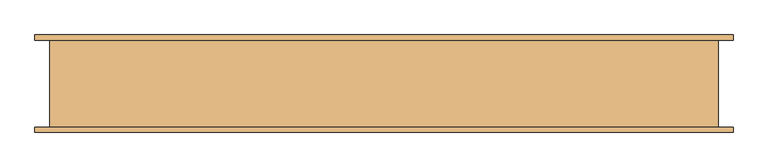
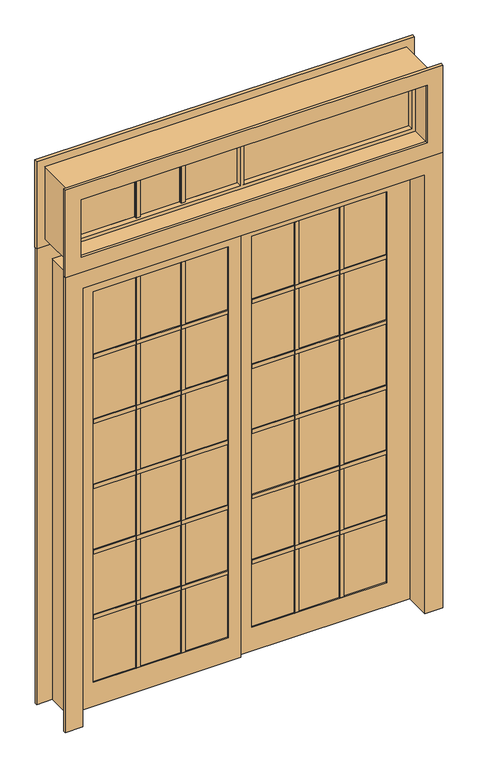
"""IFC4 building model written with IfcOpenShell, lengths in millimetres: door geometry, Pollard_Windows_Vistador Patio Doors_ATS_Rectangular : AVDR6080-ATS6016_GC."""

from ifc_helpers import new_model, si_unit, frame, origin, place, context, project, spatial, polyline, outline, extrude, faceted_brep, source, transform, mapped, element, save


def door_ad6125d4(model_context):
    return source(origin(), model_context, "Body", "SolidModel", [
        faceted_brep([(-734.5339909, -25.4, 2403.7965909), (-734.5339909, -2.5, 2403.7965909), (-9.0, -2.5, 2403.7965909), (-9.0, -25.4, 2403.7965909), (734.5339909, -2.5, 2403.7965909), (734.5339909, -25.4, 2403.7965909), (9.0, -25.4, 2403.7965909), (9.0, -2.5, 2403.7965909), (-4.0, -2.5, 2416.4965909), (-747.2339909, -2.5, 2416.4965909), (-747.2339909, 2.5, 2416.4965909), (-4.0, 2.5, 2416.4965909), (4.0, 2.5, 2416.4965909), (747.2339909, 2.5, 2416.4965909), (747.2339909, -2.5, 2416.4965909), (4.0, -2.5, 2416.4965909), (-734.5339909, 2.5, 2403.7965909), (-734.5339909, 25.4, 2403.7965909), (-9.0, 25.4, 2403.7965909), (-9.0, 2.5, 2403.7965909), (734.5339909, 25.4, 2403.7965909), (734.5339909, 2.5, 2403.7965909), (9.0, 2.5, 2403.7965909), (9.0, 25.4, 2403.7965909), (770.4074, -25.4, 2439.67), (770.4074, 25.4, 2439.67), (-770.4074, 25.4, 2439.67), (-770.4074, -25.4, 2439.67), (-734.5339909, -25.4, 2171.2514091), (-734.5339909, -2.5, 2171.2514091), (-747.2339909, -2.5, 2158.5514091), (-747.2339909, 2.5, 2158.5514091), (-734.5339909, 2.5, 2171.2514091), (-734.5339909, 25.4, 2171.2514091), (-770.4074, 25.4, 2135.378), (-770.4074, -25.4, 2135.378), (-9.0, -25.4, 2171.2514091), (-9.0, -2.5, 2171.2514091), (734.5339909, -25.4, 2171.2514091), (734.5339909, -2.5, 2171.2514091), (9.0, -2.5, 2171.2514091), (9.0, -25.4, 2171.2514091), (4.0, -2.5, 2158.5514091), (747.2339909, -2.5, 2158.5514091), (747.2339909, 2.5, 2158.5514091), (4.0, 2.5, 2158.5514091), (-4.0, 2.5, 2158.5514091), (-4.0, -2.5, 2158.5514091), (-9.0, 2.5, 2171.2514091), (-9.0, 25.4, 2171.2514091), (734.5339909, 2.5, 2171.2514091), (734.5339909, 25.4, 2171.2514091), (9.0, 25.4, 2171.2514091), (9.0, 2.5, 2171.2514091), (770.4074, 25.4, 2135.378), (770.4074, -25.4, 2135.378)], [[[0, 1, 2, 3]], [[4, 5, 6, 7]], [[8, 9, 10, 11]], [[12, 13, 14, 15]], [[16, 17, 18, 19]], [[20, 21, 22, 23]], [[24, 25, 26, 27]], [[1, 0, 28, 29]], [[10, 9, 30, 31]], [[17, 16, 32, 33]], [[27, 26, 34, 35]], [[29, 28, 36, 37]], [[38, 39, 40, 41]], [[42, 43, 44, 45]], [[46, 31, 30, 47]], [[33, 32, 48, 49]], [[50, 51, 52, 53]], [[35, 34, 54, 55]], [[5, 4, 39, 38]], [[30, 9, 8, 47], [1, 29, 37, 2]], [[14, 43, 42, 15], [39, 4, 7, 40]], [[14, 13, 44, 43]], [[10, 31, 46, 11], [16, 19, 48, 32]], [[44, 13, 12, 45], [50, 53, 22, 21]], [[21, 20, 51, 50]], [[26, 25, 54, 34], [20, 23, 52, 51], [17, 33, 49, 18]], [[25, 24, 55, 54]], [[24, 27, 35, 55], [28, 0, 3, 36], [38, 41, 6, 5]], [[36, 3, 2, 37]], [[6, 41, 40, 7]], [[45, 12, 15, 42]], [[22, 53, 52, 23]], [[48, 19, 18, 49]], [[11, 46, 47, 8]]]),
        extrude(outline(polyline([(2487.549, 818.2864), (2487.549, -818.2864), (2087.499, -818.2864), (2087.499, 818.2864), (2487.549, 818.2864)]), holes=[polyline([(2155.698, 750.0874), (2155.698, -750.0874), (2419.35, -750.0874), (2419.35, 750.0874), (2155.698, 750.0874)])]), frame((0.0, 101.6, 0.0), z_axis=(0.0, 1.0, 0.0), x_axis=(0.0, 0.0, 1.0)), (0.0, 0.0, 1.0), 12.7),
        extrude(outline(polyline([(-750.0874, 2.5), (750.0874, 2.5), (750.0874, -2.5), (-750.0874, -2.5), (-750.0874, 2.5)])), frame((0.0, 0.0, 2155.698), z_axis=(0.0, 0.0, 1.0), x_axis=(1.0, 0.0, 0.0)), (0.0, 0.0, 1.0), 263.652),
        faceted_brep([(734.5339909, -2.5, 2403.7965909), (734.5339909, -25.4, 2403.7965909), (-734.5339909, -25.4, 2403.7965909), (-734.5339909, -2.5, 2403.7965909), (747.2339909, 2.5, 2416.4965909), (747.2339909, -2.5, 2416.4965909), (-747.2339909, -2.5, 2416.4965909), (-747.2339909, 2.5, 2416.4965909), (734.5339909, 25.4, 2403.7965909), (734.5339909, 2.5, 2403.7965909), (-734.5339909, 2.5, 2403.7965909), (-734.5339909, 25.4, 2403.7965909), (770.4074, -25.4, 2439.67), (770.4074, 25.4, 2439.67), (-770.4074, 25.4, 2439.67), (-770.4074, -25.4, 2439.67), (-734.5339909, -25.4, 2171.2514091), (-734.5339909, -2.5, 2171.2514091), (-747.2339909, -2.5, 2158.5514091), (-747.2339909, 2.5, 2158.5514091), (-734.5339909, 2.5, 2171.2514091), (-734.5339909, 25.4, 2171.2514091), (-770.4074, 25.4, 2135.378), (-770.4074, -25.4, 2135.378), (734.5339909, -25.4, 2171.2514091), (734.5339909, -2.5, 2171.2514091), (747.2339909, -2.5, 2158.5514091), (747.2339909, 2.5, 2158.5514091), (734.5339909, 2.5, 2171.2514091), (734.5339909, 25.4, 2171.2514091), (770.4074, 25.4, 2135.378), (770.4074, -25.4, 2135.378)], [[[0, 1, 2, 3]], [[4, 5, 6, 7]], [[8, 9, 10, 11]], [[12, 13, 14, 15]], [[3, 2, 16, 17]], [[7, 6, 18, 19]], [[11, 10, 20, 21]], [[15, 14, 22, 23]], [[17, 16, 24, 25]], [[19, 18, 26, 27]], [[21, 20, 28, 29]], [[23, 22, 30, 31]], [[25, 24, 1, 0]], [[5, 26, 18, 6], [3, 17, 25, 0]], [[27, 26, 5, 4]], [[7, 19, 27, 4], [9, 28, 20, 10]], [[29, 28, 9, 8]], [[13, 30, 22, 14], [11, 21, 29, 8]], [[31, 30, 13, 12]], [[15, 23, 31, 12], [1, 24, 16, 2]]]),
        faceted_brep([(-750.0874, -25.4, 2419.35), (-750.0874, -101.6, 2419.35), (-750.0874, -101.6, 2155.698), (-750.0874, -25.4, 2155.698), (-750.0874, 101.6, 2419.35), (-750.0874, 25.4, 2419.35), (-750.0874, 25.4, 2155.698), (-750.0874, 101.6, 2155.698), (-783.1074, -101.6, 2452.37), (-783.1074, 101.6, 2452.37), (-783.1074, 101.6, 2122.678), (-783.1074, -101.6, 2122.678), (750.0874, -101.6, 2155.698), (750.0874, -25.4, 2155.698), (750.0874, 25.4, 2155.698), (750.0874, 101.6, 2155.698), (783.1074, 101.6, 2122.678), (783.1074, -101.6, 2122.678), (750.0874, -101.6, 2419.35), (750.0874, -25.4, 2419.35), (750.0874, 25.4, 2419.35), (750.0874, 101.6, 2419.35), (783.1074, 101.6, 2452.37), (783.1074, -101.6, 2452.37), (-770.4074, -25.4, 2439.67), (770.4074, -25.4, 2439.67), (770.4074, -25.4, 2135.378), (-770.4074, -25.4, 2135.378), (-770.4074, 25.4, 2135.378), (770.4074, 25.4, 2135.378), (770.4074, 25.4, 2439.67), (-770.4074, 25.4, 2439.67)], [[[0, 1, 2, 3]], [[4, 5, 6, 7]], [[8, 9, 10, 11]], [[3, 2, 12, 13]], [[7, 6, 14, 15]], [[11, 10, 16, 17]], [[13, 12, 18, 19]], [[15, 14, 20, 21]], [[17, 16, 22, 23]], [[11, 17, 23, 8], [1, 18, 12, 2]], [[19, 18, 1, 0]], [[24, 25, 26, 27], [3, 13, 19, 0]], [[28, 29, 30, 31], [5, 20, 14, 6]], [[21, 20, 5, 4]], [[9, 22, 16, 10], [7, 15, 21, 4]], [[23, 22, 9, 8]], [[31, 24, 27, 28]], [[28, 27, 26, 29]], [[29, 26, 25, 30]], [[30, 25, 24, 31]]]),
        extrude(outline(polyline([(2487.549, 818.2864), (2487.549, -818.2864), (2087.499, -818.2864), (2087.499, 818.2864), (2487.549, 818.2864)]), holes=[polyline([(2419.35, 750.0874), (2155.698, 750.0874), (2155.698, -750.0874), (2419.35, -750.0874), (2419.35, 750.0874)])]), frame((0.0, -114.3, 0.0), z_axis=(0.0, 1.0, 0.0), x_axis=(0.0, 0.0, 1.0)), (0.0, 0.0, 1.0), 12.7),
        extrude(outline(polyline([(-54.991, -10.0399998), (-640.1054, -10.0399998), (-640.1054, -4.9599998), (-54.991, -4.9599998), (-54.991, -10.0399998)])), frame((0.0, 0.0, 109.982), z_axis=(0.0, 0.0, 1.0), x_axis=(1.0, 0.0, 0.0)), (0.0, 0.0, 1.0), 1790.586),
        extrude(outline(polyline([(54.991, 10.0399998), (640.1054, 10.0399998), (640.1054, 4.9599998), (54.991, 4.9599998), (54.991, 10.0399998)])), frame((0.0, 0.0, 109.982), z_axis=(0.0, 0.0, 1.0), x_axis=(1.0, 0.0, 0.0)), (0.0, 0.0, 1.0), 1790.586),
        extrude(outline(polyline([(2010.55, 741.3374), (2010.55, 0.0), (0.0, 0.0), (0.0, 741.3374), (2010.55, 741.3374)]), holes=[polyline([(109.982, 640.1054), (109.982, 54.991), (1900.568, 54.991), (1900.568, 640.1054), (109.982, 640.1054)])]), frame((0.0, 0.0, 0.0), z_axis=(0.0, 1.0, 0.0), x_axis=(0.0, 0.0, 1.0)), (0.0, 0.0, 1.0), 14.9999996),
        extrude(outline(polyline([(2010.55, -741.3374), (0.0, -741.3374), (0.0, 0.0), (2010.55, 0.0), (2010.55, -741.3374)]), holes=[polyline([(1900.568, -640.1054), (1900.568, -54.991), (109.982, -54.991), (109.982, -640.1054), (1900.568, -640.1054)])]), frame((0.0, -14.9999996, 0.0), z_axis=(0.0, 1.0, 0.0), x_axis=(0.0, 0.0, 1.0)), (0.0, 0.0, 1.0), 14.9999996),
        faceted_brep([(818.2864, 111.6, 0.0), (818.2864, 101.6, 0.0), (750.0874, 101.6, 0.0), (750.0874, -101.6, 0.0), (818.2864, -101.6, 0.0), (818.2864, -111.6, 0.0), (741.3374, -111.6, 0.0), (741.3374, 111.6, 0.0), (818.2864, 111.6, 2087.499), (818.2864, 101.6, 2087.499), (-818.2864, 101.6, 2087.499), (-818.2864, 101.6, 0.0), (-750.0874, 101.6, 0.0), (-750.0874, 101.6, 2019.3), (750.0874, 101.6, 2019.3), (750.0874, -101.6, 2019.3), (-750.0874, -101.6, 2019.3), (-750.0874, -101.6, 0.0), (-818.2864, -101.6, 0.0), (-818.2864, -101.6, 2087.499), (818.2864, -101.6, 2087.499), (818.2864, -111.6, 2087.499), (-818.2864, -111.6, 2087.499), (-818.2864, -111.6, 0.0), (-741.3374, -111.6, 0.0), (-741.3374, -111.6, 2010.55), (741.3374, -111.6, 2010.55), (741.3374, 111.6, 2010.55), (-741.3374, 111.6, 2010.55), (-741.3374, 111.6, 0.0), (-818.2864, 111.6, 0.0), (-818.2864, 111.6, 2087.499)], [[[0, 1, 2, 3, 4, 5, 6, 7]], [[1, 0, 8, 9]], [[2, 1, 9, 10, 11, 12, 13, 14]], [[2, 14, 15, 3]], [[4, 3, 15, 16, 17, 18, 19, 20]], [[5, 4, 20, 21]], [[6, 5, 21, 22, 23, 24, 25, 26]], [[6, 26, 27, 7]], [[0, 7, 27, 28, 29, 30, 31, 8]], [[30, 29, 24, 23, 18, 17, 12, 11]], [[28, 25, 24, 29]], [[22, 19, 18, 23]], [[16, 13, 12, 17]], [[10, 31, 30, 11]], [[9, 8, 31, 10]], [[27, 26, 25, 28]], [[15, 14, 13, 16]], [[21, 20, 19, 22]]]),
        extrude(outline(polyline([(14.9999996, 1014.275), (14.9999996, 996.275), (9.9999998, 996.275), (9.9999998, 1001.275), (4.9999998, 1001.275), (4.9999998, 996.275), (0.0, 996.275), (0.0, 1014.275), (4.9999998, 1014.275), (4.9999998, 1009.275), (9.9999998, 1009.275), (9.9999998, 1014.275), (14.9999996, 1014.275)])), frame((54.991, 0.0, 0.0), z_axis=(1.0, 0.0, 0.0), x_axis=(0.0, 1.0, 0.0)), (0.0, 0.0, 1.0), 585.1144),
        extrude(outline(polyline([(14.9999996, 1611.137), (14.9999996, 1593.137), (9.9999998, 1593.137), (9.9999998, 1598.137), (4.9999998, 1598.137), (4.9999998, 1593.137), (0.0, 1593.137), (0.0, 1611.137), (4.9999998, 1611.137), (4.9999998, 1606.137), (9.9999998, 1606.137), (9.9999998, 1611.137), (14.9999996, 1611.137)])), frame((54.991, 0.0, 0.0), z_axis=(1.0, 0.0, 0.0), x_axis=(0.0, 1.0, 0.0)), (0.0, 0.0, 1.0), 585.1144),
        extrude(outline(polyline([(-14.9999996, 1593.137), (-14.9999996, 1611.137), (-9.9999998, 1611.137), (-9.9999998, 1606.137), (-4.9999998, 1606.137), (-4.9999998, 1611.137), (0.0, 1611.137), (0.0, 1593.137), (-4.9999998, 1593.137), (-4.9999998, 1598.137), (-9.9999998, 1598.137), (-9.9999998, 1593.137), (-14.9999996, 1593.137)])), frame((-640.1054, 0.0, 0.0), z_axis=(1.0, 0.0, 0.0), x_axis=(0.0, 1.0, 0.0)), (0.0, 0.0, 1.0), 585.1144),
        extrude(outline(polyline([(14.9999996, 1312.706), (14.9999996, 1294.706), (9.9999998, 1294.706), (9.9999998, 1299.706), (4.9999998, 1299.706), (4.9999998, 1294.706), (0.0, 1294.706), (0.0, 1312.706), (4.9999998, 1312.706), (4.9999998, 1307.706), (9.9999998, 1307.706), (9.9999998, 1312.706), (14.9999996, 1312.706)])), frame((54.991, 0.0, 0.0), z_axis=(1.0, 0.0, 0.0), x_axis=(0.0, 1.0, 0.0)), (0.0, 0.0, 1.0), 585.1144),
        extrude(outline(polyline([(-14.9999996, 1294.706), (-14.9999996, 1312.706), (-9.9999998, 1312.706), (-9.9999998, 1307.706), (-4.9999998, 1307.706), (-4.9999998, 1312.706), (0.0, 1312.706), (0.0, 1294.706), (-4.9999998, 1294.706), (-4.9999998, 1299.706), (-9.9999998, 1299.706), (-9.9999998, 1294.706), (-14.9999996, 1294.706)])), frame((-640.1054, 0.0, 0.0), z_axis=(1.0, 0.0, 0.0), x_axis=(0.0, 1.0, 0.0)), (0.0, 0.0, 1.0), 585.1144),
        extrude(outline(polyline([(14.9999996, 715.844), (14.9999996, 697.844), (9.9999998, 697.844), (9.9999998, 702.844), (4.9999998, 702.844), (4.9999998, 697.844), (0.0, 697.844), (0.0, 715.844), (4.9999998, 715.844), (4.9999998, 710.844), (9.9999998, 710.844), (9.9999998, 715.844), (14.9999996, 715.844)])), frame((54.991, 0.0, 0.0), z_axis=(1.0, 0.0, 0.0), x_axis=(0.0, 1.0, 0.0)), (0.0, 0.0, 1.0), 585.1144),
        extrude(outline(polyline([(-14.9999996, 697.844), (-14.9999996, 715.844), (-9.9999998, 715.844), (-9.9999998, 710.844), (-4.9999998, 710.844), (-4.9999998, 715.844), (0.0, 715.844), (0.0, 697.844), (-4.9999998, 697.844), (-4.9999998, 702.844), (-9.9999998, 702.844), (-9.9999998, 697.844), (-14.9999996, 697.844)])), frame((-640.1054, 0.0, 0.0), z_axis=(1.0, 0.0, 0.0), x_axis=(0.0, 1.0, 0.0)), (0.0, 0.0, 1.0), 585.1144),
        extrude(outline(polyline([(14.9999996, 417.413), (14.9999996, 399.413), (9.9999998, 399.413), (9.9999998, 404.413), (4.9999998, 404.413), (4.9999998, 399.413), (0.0, 399.413), (0.0, 417.413), (4.9999998, 417.413), (4.9999998, 412.413), (9.9999998, 412.413), (9.9999998, 417.413), (14.9999996, 417.413)])), frame((54.991, 0.0, 0.0), z_axis=(1.0, 0.0, 0.0), x_axis=(0.0, 1.0, 0.0)), (0.0, 0.0, 1.0), 585.1144),
        extrude(outline(polyline([(-14.9999996, 399.413), (-14.9999996, 417.413), (-9.9999998, 417.413), (-9.9999998, 412.413), (-4.9999998, 412.413), (-4.9999998, 417.413), (0.0, 417.413), (0.0, 399.413), (-4.9999998, 399.413), (-4.9999998, 404.413), (-9.9999998, 404.413), (-9.9999998, 399.413), (-14.9999996, 399.413)])), frame((-640.1054, 0.0, 0.0), z_axis=(1.0, 0.0, 0.0), x_axis=(0.0, 1.0, 0.0)), (0.0, 0.0, 1.0), 585.1144),
        extrude(outline(polyline([(-14.9999996, 996.275), (-14.9999996, 1014.275), (-9.9999998, 1014.275), (-9.9999998, 1009.275), (-4.9999998, 1009.275), (-4.9999998, 1014.275), (0.0, 1014.275), (0.0, 996.275), (-4.9999998, 996.275), (-4.9999998, 1001.275), (-9.9999998, 1001.275), (-9.9999998, 996.275), (-14.9999996, 996.275)])), frame((-640.1054, 0.0, 0.0), z_axis=(1.0, 0.0, 0.0), x_axis=(0.0, 1.0, 0.0)), (0.0, 0.0, 1.0), 585.1144),
        extrude(outline(polyline([(454.0672667, 14.9999996), (454.0672667, 9.9999998), (449.0672667, 9.9999998), (449.0672667, 4.9999998), (454.0672667, 4.9999998), (454.0672667, 0.0), (436.0672667, 0.0), (436.0672667, 4.9999998), (441.0672667, 4.9999998), (441.0672667, 9.9999998), (436.0672667, 9.9999998), (436.0672667, 14.9999996), (454.0672667, 14.9999996)])), frame((0.0, 0.0, 109.982), z_axis=(0.0, 0.0, 1.0), x_axis=(1.0, 0.0, 0.0)), (0.0, 0.0, 1.0), 1790.586),
        extrude(outline(polyline([(436.0672667, 14.9999996), (454.0672667, 14.9999996), (454.0672667, 9.9999998), (449.0672667, 9.9999998), (449.0672667, 4.9999998), (454.0672667, 4.9999998), (454.0672667, 0.0), (436.0672667, 0.0), (436.0672667, 4.9999998), (441.0672667, 4.9999998), (441.0672667, 9.9999998), (436.0672667, 9.9999998), (436.0672667, 14.9999996)])), frame((0.0, 0.0, 2155.698), z_axis=(0.0, 0.0, 1.0), x_axis=(1.0, 0.0, 0.0)), (0.0, 0.0, 1.0), 263.652),
        extrude(outline(polyline([(259.0291333, 14.9999996), (259.0291333, 9.9999998), (254.0291333, 9.9999998), (254.0291333, 4.9999998), (259.0291333, 4.9999998), (259.0291333, 0.0), (241.0291333, 0.0), (241.0291333, 4.9999998), (246.0291333, 4.9999998), (246.0291333, 9.9999998), (241.0291333, 9.9999998), (241.0291333, 14.9999996), (259.0291333, 14.9999996)])), frame((0.0, 0.0, 109.982), z_axis=(0.0, 0.0, 1.0), x_axis=(1.0, 0.0, 0.0)), (0.0, 0.0, 1.0), 1790.586),
        extrude(outline(polyline([(241.0291333, 14.9999996), (259.0291333, 14.9999996), (259.0291333, 9.9999998), (254.0291333, 9.9999998), (254.0291333, 4.9999998), (259.0291333, 4.9999998), (259.0291333, 0.0), (241.0291333, 0.0), (241.0291333, 4.9999998), (246.0291333, 4.9999998), (246.0291333, 9.9999998), (241.0291333, 9.9999998), (241.0291333, 14.9999996)])), frame((0.0, 0.0, 2155.698), z_axis=(0.0, 0.0, 1.0), x_axis=(1.0, 0.0, 0.0)), (0.0, 0.0, 1.0), 263.652),
        extrude(outline(polyline([(-241.0291333, 0.0), (-241.0291333, -4.9999998), (-246.0291333, -4.9999998), (-246.0291333, -9.9999998), (-241.0291333, -9.9999998), (-241.0291333, -14.9999996), (-259.0291333, -14.9999996), (-259.0291333, -9.9999998), (-254.0291333, -9.9999998), (-254.0291333, -4.9999998), (-259.0291333, -4.9999998), (-259.0291333, 0.0), (-241.0291333, 0.0)])), frame((0.0, 0.0, 109.982), z_axis=(0.0, 0.0, 1.0), x_axis=(1.0, 0.0, 0.0)), (0.0, 0.0, 1.0), 1790.586),
        extrude(outline(polyline([(-259.0291333, 0.0), (-241.0291333, 0.0), (-241.0291333, -4.9999998), (-246.0291333, -4.9999998), (-246.0291333, -9.9999998), (-241.0291333, -9.9999998), (-241.0291333, -14.9999996), (-259.0291333, -14.9999996), (-259.0291333, -9.9999998), (-254.0291333, -9.9999998), (-254.0291333, -4.9999998), (-259.0291333, -4.9999998), (-259.0291333, 0.0)])), frame((0.0, 0.0, 2155.698), z_axis=(0.0, 0.0, 1.0), x_axis=(1.0, 0.0, 0.0)), (0.0, 0.0, 1.0), 263.652),
        extrude(outline(polyline([(-436.0672667, 0.0), (-436.0672667, -4.9999998), (-441.0672667, -4.9999998), (-441.0672667, -9.9999998), (-436.0672667, -9.9999998), (-436.0672667, -14.9999996), (-454.0672667, -14.9999996), (-454.0672667, -9.9999998), (-449.0672667, -9.9999998), (-449.0672667, -4.9999998), (-454.0672667, -4.9999998), (-454.0672667, 0.0), (-436.0672667, 0.0)])), frame((0.0, 0.0, 109.982), z_axis=(0.0, 0.0, 1.0), x_axis=(1.0, 0.0, 0.0)), (0.0, 0.0, 1.0), 1790.586),
        extrude(outline(polyline([(-454.0672667, 0.0), (-436.0672667, 0.0), (-436.0672667, -4.9999998), (-441.0672667, -4.9999998), (-441.0672667, -9.9999998), (-436.0672667, -9.9999998), (-436.0672667, -14.9999996), (-454.0672667, -14.9999996), (-454.0672667, -9.9999998), (-449.0672667, -9.9999998), (-449.0672667, -4.9999998), (-454.0672667, -4.9999998), (-454.0672667, 0.0)])), frame((0.0, 0.0, 2155.698), z_axis=(0.0, 0.0, 1.0), x_axis=(1.0, 0.0, 0.0)), (0.0, 0.0, 1.0), 263.652),
    ])


if __name__ == "__main__":
    model = new_model("IFC4")
    model_context = context("Model", 3, world=origin())
    ifc_project = project(units=[si_unit("LENGTHUNIT", "METRE", prefix="MILLI")], contexts=[model_context])
    site = spatial("IfcSite", under=ifc_project)
    building = spatial("IfcBuilding", under=site)
    placement = place(None, origin())
    door_shape = door_ad6125d4(model_context)
    element("IfcDoor", 1, ObjectType="Pollard_Windows_Vistador Patio Doors_ATS_Rectangular : AVDR6080-ATS6016_GC", at=placement, inside=building, context=model_context, shape_type="MappedRepresentation", body=[
        mapped(door_shape, transform((0.0, 0.0, 0.0), x_axis=(1.0, 0.0, 0.0), y_axis=(0.0, 1.0, 0.0), z_axis=(0.0, 0.0, 1.0))),
    ])
    save(model, "model.ifc")
